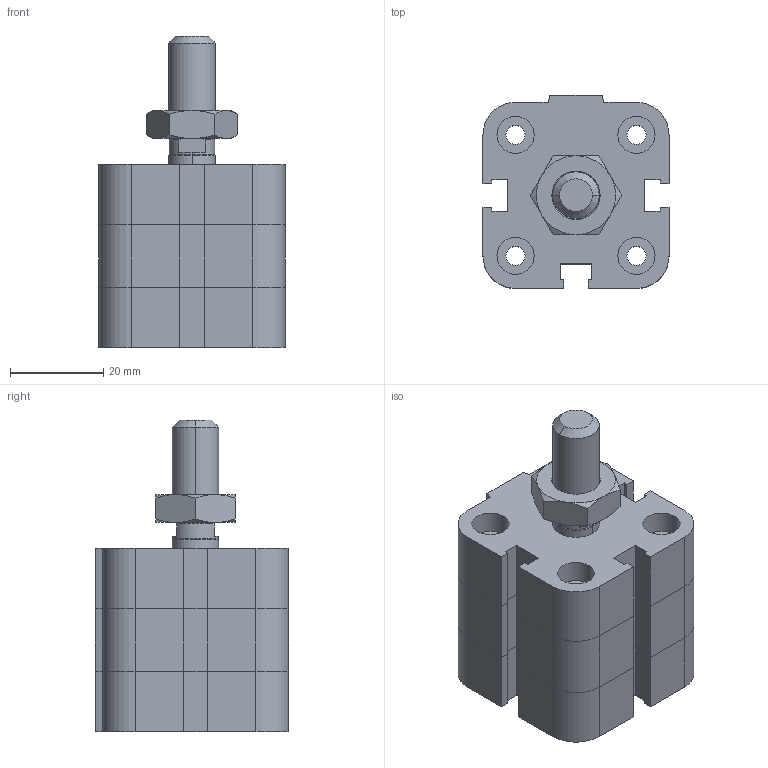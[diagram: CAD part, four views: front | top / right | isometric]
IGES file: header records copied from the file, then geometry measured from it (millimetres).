
Global section: file name: No Iges File Name specified; native system: Autodesk Inventor 2009; preprocessor: AutoDesk Inventor Iges Exporter R2009; author: rivolro1; date: 20081219.161611; units: millimetre
Bounding box: 40 x 41.5 x 67 mm (x, y, z)
Volume: 57795.4 mm3; surface area: 16196.2 mm2
Topology: 3 solids, 3 shells, 200 faces, 448 edges, 266 vertices
Faces by surface type: plane 117, bspline 33, cylinder 20, cone 20, revolution 10
